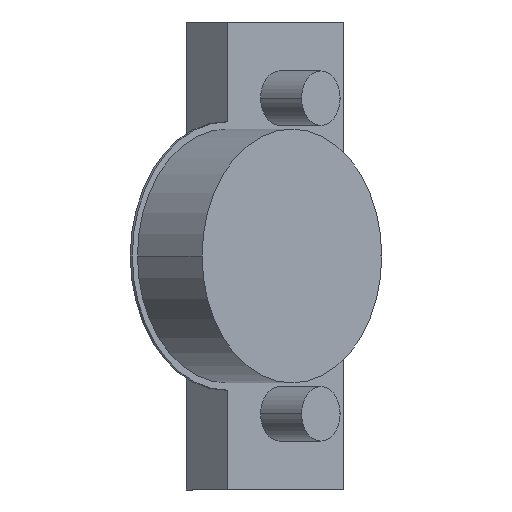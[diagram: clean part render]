
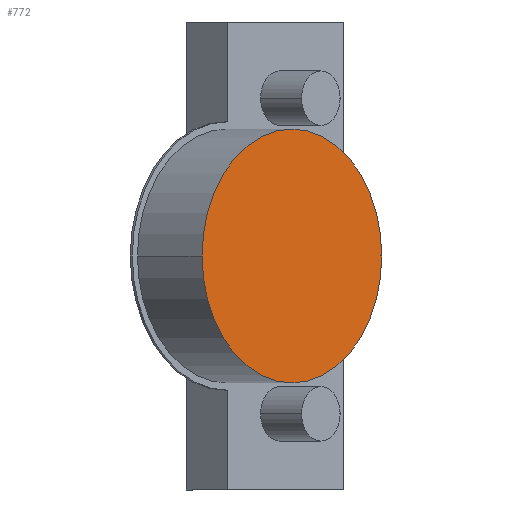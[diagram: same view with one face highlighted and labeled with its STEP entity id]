
A CAD part, front view. The second image highlights one B-rep face of the part: STEP entity #772.
In plain terms, the highlighted planar face has unit normal (0.707, -0.707, 0).
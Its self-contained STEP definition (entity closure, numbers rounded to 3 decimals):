
#18 = VERTEX_POINT ( 'NONE', #115 ) ;
#23 = VERTEX_POINT ( 'NONE', #120 ) ;
#115 = CARTESIAN_POINT ( 'NONE',  ( 30.834, 3.465, 0. ) ) ;
#120 = CARTESIAN_POINT ( 'NONE',  ( 6.085, -21.284, 0. ) ) ;
#242 = PLANE ( 'NONE',  #1594 ) ;
#245 = CARTESIAN_POINT ( 'NONE',  ( 18.46, -8.91, 0. ) ) ;
#263 = DIRECTION ( 'NONE',  ( 0.707, -0.707, 0. ) ) ;
#264 = DIRECTION ( 'NONE',  ( 0.707, 0.707, 0. ) ) ;
#471 = CARTESIAN_POINT ( 'NONE',  ( 18.46, -8.91, 0. ) ) ;
#473 = DIRECTION ( 'NONE',  ( 0.707, -0.707, 0. ) ) ;
#474 = DIRECTION ( 'NONE',  ( 0.707, 0.707, 0. ) ) ;
#535 = CARTESIAN_POINT ( 'NONE',  ( 18.46, -8.91, 0. ) ) ;
#541 = DIRECTION ( 'NONE',  ( 0.707, -0.707, 0. ) ) ;
#542 = DIRECTION ( 'NONE',  ( 0.707, 0.707, 0. ) ) ;
#772 = ADVANCED_FACE ( 'NONE', ( #1112 ), #242, .T. ) ;
#922 = ORIENTED_EDGE ( 'NONE', *, *, #1453, .T. ) ;
#923 = ORIENTED_EDGE ( 'NONE', *, *, #1483, .T. ) ;
#1112 = FACE_OUTER_BOUND ( 'NONE', #1740, .T. ) ;
#1202 = CIRCLE ( 'NONE', #1642, 17.5 ) ;
#1254 = CIRCLE ( 'NONE', #1651, 17.5 ) ;
#1453 = EDGE_CURVE ( 'NONE', #18, #23, #1202, .T. ) ;
#1483 = EDGE_CURVE ( 'NONE', #23, #18, #1254, .T. ) ;
#1594 = AXIS2_PLACEMENT_3D ( 'NONE', #245, #263, #264 ) ;
#1642 = AXIS2_PLACEMENT_3D ( 'NONE', #471, #473, #474 ) ;
#1651 = AXIS2_PLACEMENT_3D ( 'NONE', #535, #541, #542 ) ;
#1740 = EDGE_LOOP ( 'NONE', ( #923, #922 ) ) ;
